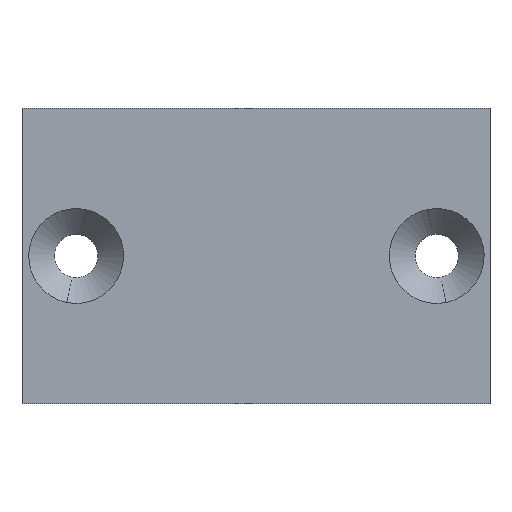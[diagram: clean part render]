
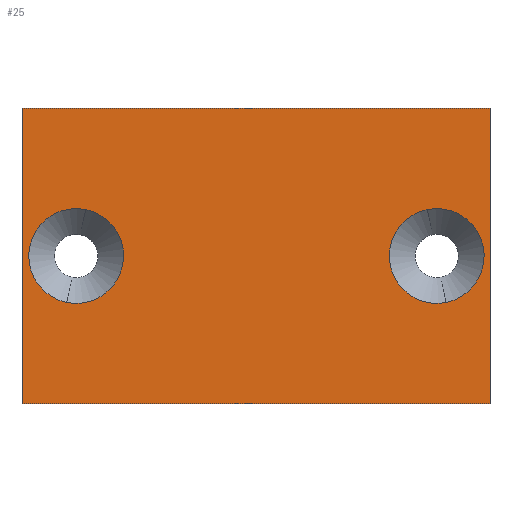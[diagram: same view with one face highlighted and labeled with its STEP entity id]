
A CAD part, top view. The second image highlights one B-rep face of the part: STEP entity #25.
In plain terms, the highlighted planar face has unit normal (0, 0, 1).
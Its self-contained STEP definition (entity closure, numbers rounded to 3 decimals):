
#14=FACE_BOUND('',#54,.T.);
#15=FACE_BOUND('',#55,.T.);
#25=ADVANCED_FACE('',(#39,#14,#15),#235,.T.);
#39=FACE_OUTER_BOUND('',#53,.T.);
#53=EDGE_LOOP('',(#92,#93,#94,#95));
#54=EDGE_LOOP('',(#96,#97));
#55=EDGE_LOOP('',(#98,#99));
#92=ORIENTED_EDGE('',*,*,#131,.F.);
#93=ORIENTED_EDGE('',*,*,#151,.F.);
#94=ORIENTED_EDGE('',*,*,#133,.F.);
#95=ORIENTED_EDGE('',*,*,#152,.T.);
#96=ORIENTED_EDGE('',*,*,#145,.F.);
#97=ORIENTED_EDGE('',*,*,#158,.T.);
#98=ORIENTED_EDGE('',*,*,#148,.F.);
#99=ORIENTED_EDGE('',*,*,#159,.T.);
#131=EDGE_CURVE('',#207,#204,#191,.T.);
#133=EDGE_CURVE('',#209,#210,#193,.T.);
#145=EDGE_CURVE('',#220,#221,#168,.T.);
#148=EDGE_CURVE('',#222,#223,#169,.T.);
#151=EDGE_CURVE('',#210,#207,#201,.T.);
#152=EDGE_CURVE('',#209,#204,#202,.T.);
#158=EDGE_CURVE('',#220,#221,#174,.T.);
#159=EDGE_CURVE('',#222,#223,#175,.T.);
#168=TRIMMED_CURVE($,#180,(#497),(#498),.T.,.CARTESIAN.);
#169=TRIMMED_CURVE($,#181,(#504),(#505),.T.,.CARTESIAN.);
#174=TRIMMED_CURVE($,#186,(#529),(#530),.T.,.CARTESIAN.);
#175=TRIMMED_CURVE($,#187,(#532),(#533),.T.,.CARTESIAN.);
#180=CIRCLE('',#340,2.212);
#181=CIRCLE('',#341,2.212);
#186=CIRCLE('',#346,2.212);
#187=CIRCLE('',#347,2.212);
#191=B_SPLINE_CURVE_WITH_KNOTS('',1,(#464,#465),.UNSPECIFIED.,.F.,.F.,(2,
2),(0.,21.829),.UNSPECIFIED.);
#193=B_SPLINE_CURVE_WITH_KNOTS('',1,(#468,#469),.UNSPECIFIED.,.F.,.F.,(2,
2),(0.,21.829),.UNSPECIFIED.);
#201=B_SPLINE_CURVE_WITH_KNOTS('',1,(#510,#511),.UNSPECIFIED.,.F.,.F.,(2,
2),(0.,13.8),.UNSPECIFIED.);
#202=B_SPLINE_CURVE_WITH_KNOTS('',1,(#512,#513),.UNSPECIFIED.,.F.,.F.,(2,
2),(0.,13.8),.UNSPECIFIED.);
#204=VERTEX_POINT('',#438);
#207=VERTEX_POINT('',#441);
#209=VERTEX_POINT('',#443);
#210=VERTEX_POINT('',#444);
#220=VERTEX_POINT('',#454);
#221=VERTEX_POINT('',#455);
#222=VERTEX_POINT('',#456);
#223=VERTEX_POINT('',#457);
#235=PLANE('',#331);
#331=AXIS2_PLACEMENT_3D('',#413,#356,$);
#340=AXIS2_PLACEMENT_3D($,#496,#369,#370);
#341=AXIS2_PLACEMENT_3D($,#503,#371,#372);
#346=AXIS2_PLACEMENT_3D($,#528,#381,#382);
#347=AXIS2_PLACEMENT_3D($,#531,#383,#384);
#356=DIRECTION('',(0.,0.,1.));
#369=DIRECTION('',(0.,0.,1.));
#370=DIRECTION('',(0.2,0.98,0.));
#371=DIRECTION('',(0.,0.,1.));
#372=DIRECTION('',(-0.2,0.98,0.));
#381=DIRECTION('',(0.,0.,-1.));
#382=DIRECTION('',(0.2,0.98,0.));
#383=DIRECTION('',(0.,0.,-1.));
#384=DIRECTION('',(-0.2,0.98,0.));
#413=CARTESIAN_POINT('',(-13.214,-8.292,1.));
#438=CARTESIAN_POINT('',(-10.915,-6.9,1.));
#441=CARTESIAN_POINT('',(10.915,-6.9,1.));
#443=CARTESIAN_POINT('',(-10.915,6.9,1.));
#444=CARTESIAN_POINT('',(10.915,6.9,1.));
#454=CARTESIAN_POINT('',(-7.947,2.167,1.));
#455=CARTESIAN_POINT('',(-8.83,-2.168,1.));
#456=CARTESIAN_POINT('',(7.988,2.167,1.));
#457=CARTESIAN_POINT('',(8.871,-2.168,1.));
#464=CARTESIAN_POINT('',(10.915,-6.9,1.));
#465=CARTESIAN_POINT('',(-10.915,-6.9,1.));
#468=CARTESIAN_POINT('',(-10.915,6.9,1.));
#469=CARTESIAN_POINT('',(10.915,6.9,1.));
#496=CARTESIAN_POINT('',(-8.389,-0.001,1.));
#497=CARTESIAN_POINT('',(-7.947,2.167,1.));
#498=CARTESIAN_POINT('',(-8.83,-2.168,1.));
#503=CARTESIAN_POINT('',(8.43,-0.001,1.));
#504=CARTESIAN_POINT('',(7.988,2.167,1.));
#505=CARTESIAN_POINT('',(8.871,-2.168,1.));
#510=CARTESIAN_POINT('',(10.915,6.9,1.));
#511=CARTESIAN_POINT('',(10.915,-6.9,1.));
#512=CARTESIAN_POINT('',(-10.915,6.9,1.));
#513=CARTESIAN_POINT('',(-10.915,-6.9,1.));
#528=CARTESIAN_POINT('',(-8.389,-0.001,1.));
#529=CARTESIAN_POINT('',(-7.947,2.167,1.));
#530=CARTESIAN_POINT('',(-8.83,-2.168,1.));
#531=CARTESIAN_POINT('',(8.43,-0.001,1.));
#532=CARTESIAN_POINT('',(7.988,2.167,1.));
#533=CARTESIAN_POINT('',(8.871,-2.168,1.));
